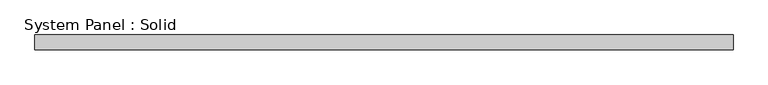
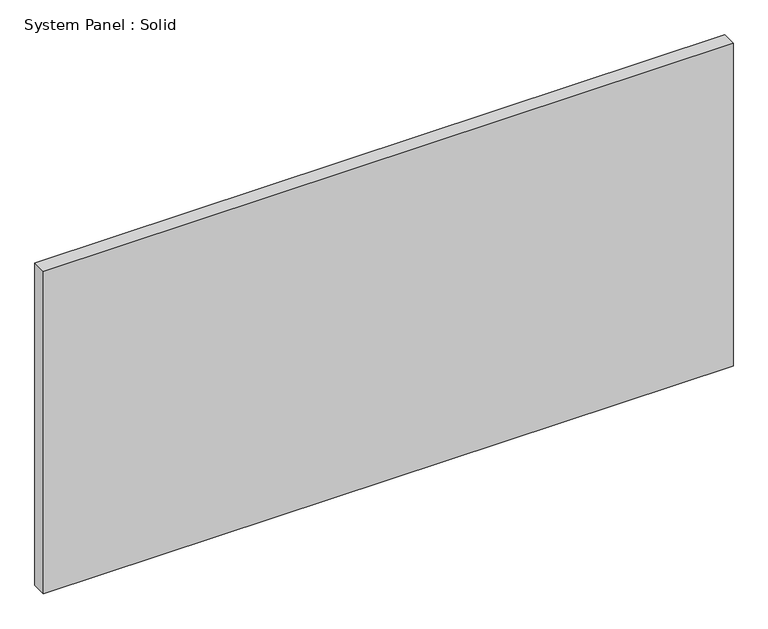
"""IFC4 building model written with IfcOpenShell, lengths in millimetres: plate geometry, System Panel : Solid."""

from ifc_helpers import new_model, si_unit, origin, origin_with_axes, place, context, project, spatial, polyline, outline, extrude, source, transform, mapped, element, save


def system_panel_solid_02c927c3(model_context):
    return source(origin(), model_context, "Body", "SweptSolid", [
        extrude(outline(polyline([(1476.375, -19.05), (-1476.375, -19.05), (-1476.375, 44.45), (1476.375, 44.45), (1476.375, -19.05)])), origin_with_axes(), (0.0, 0.0, 1.0), 1460.5),
    ])


if __name__ == "__main__":
    model = new_model("IFC4")
    model_context = context("Model", 3, world=origin())
    ifc_project = project(units=[si_unit("LENGTHUNIT", "METRE", prefix="MILLI")], contexts=[model_context])
    site = spatial("IfcSite", under=ifc_project)
    building = spatial("IfcBuilding", under=site)
    placement = place(None, origin())
    system_panel_solid_shape = system_panel_solid_02c927c3(model_context)
    element("IfcPlate", 1, ObjectType="System Panel : Solid", at=placement, inside=building, context=model_context, shape_type="MappedRepresentation", body=[
        mapped(system_panel_solid_shape, transform((0.0, 0.0, 0.0), x_axis=(1.0, 0.0, 0.0), y_axis=(0.0, 1.0, 0.0), z_axis=(0.0, 0.0, 1.0))),
    ])
    save(model, "model.ifc")
